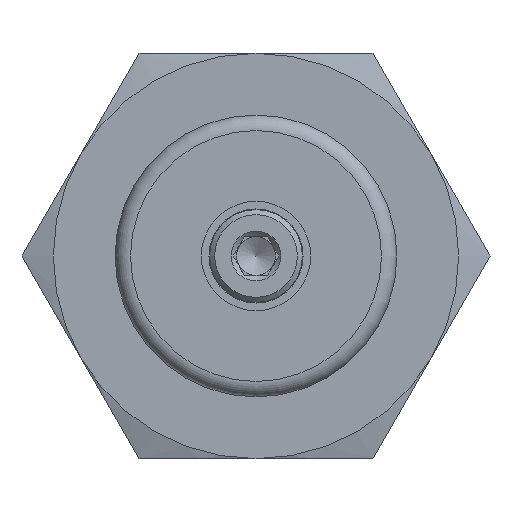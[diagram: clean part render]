
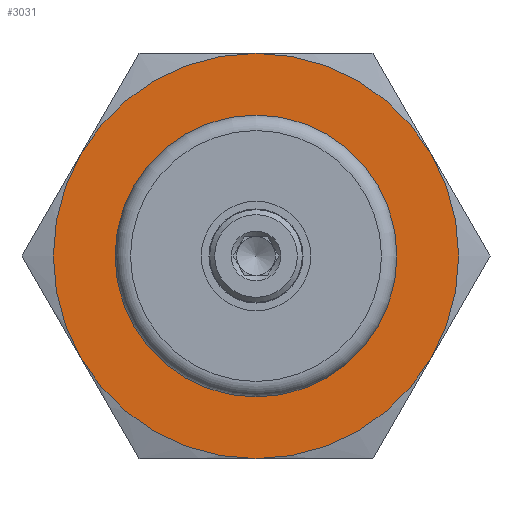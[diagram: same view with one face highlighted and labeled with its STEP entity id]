
A CAD part, left-side view. The second image highlights one B-rep face of the part: STEP entity #3031.
In plain terms, the highlighted planar face has unit normal (-1, 0, 0).
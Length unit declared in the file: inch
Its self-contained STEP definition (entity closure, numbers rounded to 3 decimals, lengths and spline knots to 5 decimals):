
#2394=CARTESIAN_POINT('',(-0.63,0.565,0.));
#2395=VERTEX_POINT('',#2394);
#2396=CARTESIAN_POINT('',(-0.63,0.0,0.));
#2397=DIRECTION('',(1.0,0.0,0.0));
#2398=DIRECTION('',(0.0,1.0,0.0));
#2399=AXIS2_PLACEMENT_3D('',#2396,#2397,#2398);
#2400=CIRCLE('',#2399,0.565);
#2401=EDGE_CURVE('',#2395,#2395,#2400,.T.);
#2437=CARTESIAN_POINT('',(-0.63,0.70365,0.40625));
#2438=VERTEX_POINT('',#2437);
#2519=CARTESIAN_POINT('',(-0.63,0.70365,-0.40625));
#2520=VERTEX_POINT('',#2519);
#2583=CARTESIAN_POINT('',(-0.63,0.0,0.8125));
#2584=VERTEX_POINT('',#2583);
#2678=CARTESIAN_POINT('',(-0.63,0.0,-0.8125));
#2679=VERTEX_POINT('',#2678);
#2751=CARTESIAN_POINT('',(-0.63,-0.70365,-0.40625));
#2752=VERTEX_POINT('',#2751);
#2815=CARTESIAN_POINT('',(-0.63,-0.70365,0.40625));
#2816=VERTEX_POINT('',#2815);
#2853=CARTESIAN_POINT('',(-0.63,0.0,0.));
#2854=DIRECTION('',(-1.0,0.0,0.0));
#2855=DIRECTION('',(0.0,0.0,1.0));
#2856=AXIS2_PLACEMENT_3D('',#2853,#2854,#2855);
#2857=CIRCLE('',#2856,0.8125);
#2858=EDGE_CURVE('',#2520,#2679,#2857,.T.);
#2870=CARTESIAN_POINT('',(-0.63,0.0,0.));
#2871=DIRECTION('',(-1.0,0.0,0.0));
#2872=DIRECTION('',(0.0,0.0,1.0));
#2873=AXIS2_PLACEMENT_3D('',#2870,#2871,#2872);
#2874=CIRCLE('',#2873,0.8125);
#2875=EDGE_CURVE('',#2679,#2752,#2874,.T.);
#2887=CARTESIAN_POINT('',(-0.63,0.0,0.));
#2888=DIRECTION('',(-1.0,0.0,0.0));
#2889=DIRECTION('',(0.0,0.0,1.0));
#2890=AXIS2_PLACEMENT_3D('',#2887,#2888,#2889);
#2891=CIRCLE('',#2890,0.8125);
#2892=EDGE_CURVE('',#2752,#2816,#2891,.T.);
#2905=CARTESIAN_POINT('',(-0.63,0.0,0.));
#2906=DIRECTION('',(-1.0,0.0,0.0));
#2907=DIRECTION('',(0.0,0.0,1.0));
#2908=AXIS2_PLACEMENT_3D('',#2905,#2906,#2907);
#2909=CIRCLE('',#2908,0.8125);
#2910=EDGE_CURVE('',#2816,#2584,#2909,.T.);
#2922=CARTESIAN_POINT('',(-0.63,0.0,0.));
#2923=DIRECTION('',(-1.0,0.0,0.0));
#2924=DIRECTION('',(0.0,0.0,1.0));
#2925=AXIS2_PLACEMENT_3D('',#2922,#2923,#2924);
#2926=CIRCLE('',#2925,0.8125);
#2927=EDGE_CURVE('',#2584,#2438,#2926,.T.);
#2939=CARTESIAN_POINT('',(-0.63,0.0,0.));
#2940=DIRECTION('',(-1.0,0.0,0.0));
#2941=DIRECTION('',(0.0,0.0,1.0));
#2942=AXIS2_PLACEMENT_3D('',#2939,#2940,#2941);
#2943=CIRCLE('',#2942,0.8125);
#2944=EDGE_CURVE('',#2438,#2520,#2943,.T.);
#3015=CARTESIAN_POINT('',(-0.63,0.,0.));
#3016=DIRECTION('',(-1.0,0.0,0.0));
#3017=DIRECTION('',(0.0,0.0,1.0));
#3018=AXIS2_PLACEMENT_3D('',#3015,#3016,#3017);
#3019=PLANE('',#3018);
#3020=ORIENTED_EDGE('',*,*,#2858,.T.);
#3021=ORIENTED_EDGE('',*,*,#2875,.T.);
#3022=ORIENTED_EDGE('',*,*,#2892,.T.);
#3023=ORIENTED_EDGE('',*,*,#2910,.T.);
#3024=ORIENTED_EDGE('',*,*,#2927,.T.);
#3025=ORIENTED_EDGE('',*,*,#2944,.T.);
#3026=EDGE_LOOP('',(#3020,#3021,#3022,#3023,#3024,#3025));
#3027=FACE_OUTER_BOUND('',#3026,.T.);
#3028=ORIENTED_EDGE('',*,*,#2401,.T.);
#3029=EDGE_LOOP('',(#3028));
#3030=FACE_BOUND('',#3029,.T.);
#3031=ADVANCED_FACE('',(#3027,#3030),#3019,.T.);
